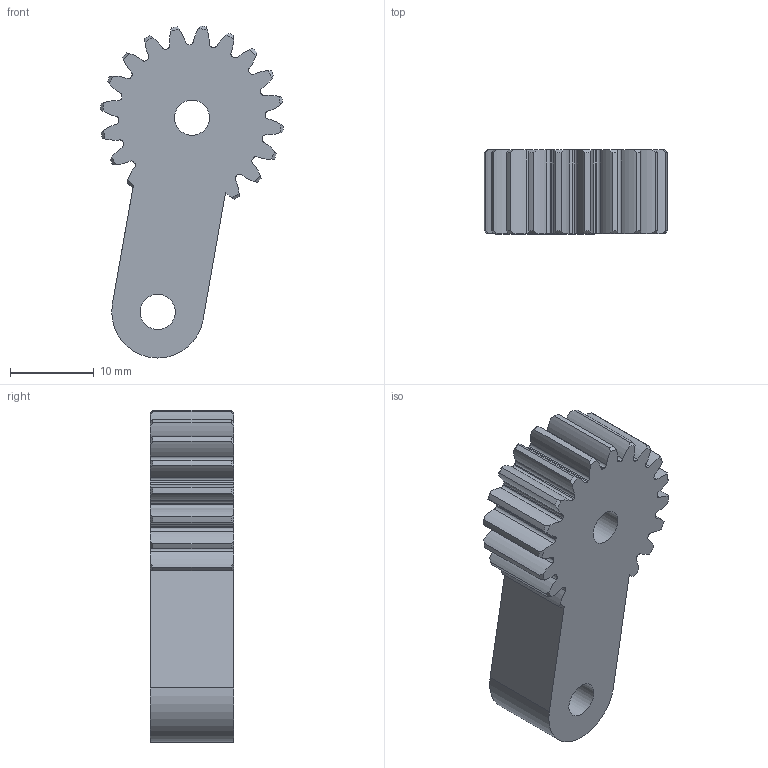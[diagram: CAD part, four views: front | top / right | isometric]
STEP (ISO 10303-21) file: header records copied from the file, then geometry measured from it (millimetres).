
FILE_DESCRIPTION(/* description */ (''),/* implementation_level */ '2;1');
FILE_NAME(/* name */ 'link.step',/* time_stamp */ '2026-03-04T15:16:43+01:00',/* author */ (''),/* organization */ (''),/* preprocessor_version */ 'ST-DEVELOPER v20.1',/* originating_system */ 'Autodesk Translation Framework v14.24.0.0',/* authorisation */ '');
FILE_SCHEMA (('AUTOMOTIVE_DESIGN { 1 0 10303 214 3 1 1 }'));
Length unit declared in the file: millimetre
Products named in the file (1): link
Bounding box: 21.91 x 10 x 39.67 mm (x, y, z)
Volume: 4865.8 mm3; surface area: 2697 mm2
Topology: 1 solids, 1 shells, 140 faces, 414 edges, 276 vertices
Faces by surface type: cylinder 86, cone 34, plane 20
Full cylindrical faces by diameter (mm): 4.2 x2
Entity records: 4889 total; most frequent: CARTESIAN_POINT 1039, DIRECTION 830, ORIENTED_EDGE 828, EDGE_CURVE 414, AXIS2_PLACEMENT_3D 345, VERTEX_POINT 276, CIRCLE 204, EDGE_LOOP 144
